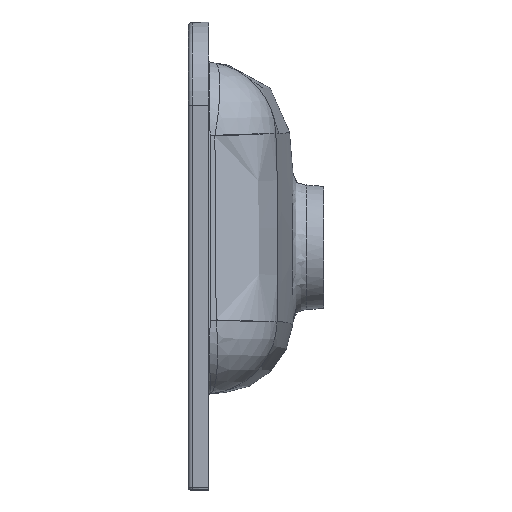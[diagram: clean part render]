
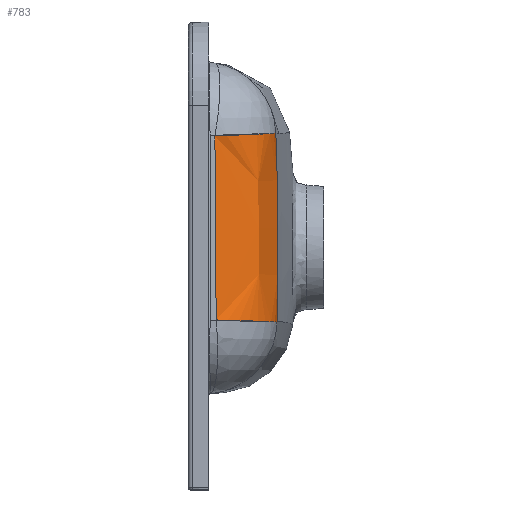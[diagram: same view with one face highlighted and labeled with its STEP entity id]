
A CAD part, left-side view. The second image highlights one B-rep face of the part: STEP entity #783.
In plain terms, the highlighted free-form (B-spline) face has degree [3, 2] with [10, 3] control points.
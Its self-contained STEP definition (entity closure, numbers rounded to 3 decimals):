
#18 = CARTESIAN_POINT ( 'NONE',  ( -240.592, 4.713, -73.352 ) ) ;
#54 = CARTESIAN_POINT ( 'NONE',  ( -306.612, 65.978, 109.721 ) ) ;
#59 = CIRCLE ( 'NONE', #292, 73. ) ;
#61 = ORIENTED_EDGE ( 'NONE', *, *, #506, .F. ) ;
#91 = CARTESIAN_POINT ( 'NONE',  ( -240.527, 5.365, 97.014 ) ) ;
#130 = CARTESIAN_POINT ( 'NONE',  ( -240.666, 4.044, -42.396 ) ) ;
#138 = DIRECTION ( 'NONE',  ( 0., -0.999, 0.038 ) ) ;
#173 = DIRECTION ( 'NONE',  ( -0.007, 0.038, 0.999 ) ) ;
#204 = CARTESIAN_POINT ( 'NONE',  ( -296.528, 8.787, 34.961 ) ) ;
#226 = CARTESIAN_POINT ( 'NONE',  ( -240.592, 4.713, -73.352 ) ) ;
#292 = AXIS2_PLACEMENT_3D ( 'NONE', #1269, #173, #138 ) ;
#391 = CARTESIAN_POINT ( 'NONE',  ( -240.592, 4.713, -73.352 ) ) ;
#506 = EDGE_CURVE ( 'NONE', #2186, #3631, #5809, .T. ) ;
#584 = FACE_OUTER_BOUND ( 'NONE', #2105, .T. ) ;
#682 = CARTESIAN_POINT ( 'NONE',  ( -306.429, 64.939, 79.524 ) ) ;
#695 = CARTESIAN_POINT ( 'NONE',  ( -306.262, 63.99, 34.224 ) ) ;
#783 = ADVANCED_FACE ( 'NONE', ( #584 ), #6245, .T. ) ;
#805 = CARTESIAN_POINT ( 'NONE',  ( -306.279, 64.09, -41.288 ) ) ;
#880 = CARTESIAN_POINT ( 'NONE',  ( -240.707, 3.726, 4.066 ) ) ;
#1243 = DIRECTION ( 'NONE',  ( 0.005, -0.026, 1. ) ) ;
#1269 = CARTESIAN_POINT ( 'NONE',  ( -234.721, 78.654, 109.721 ) ) ;
#1294 = CARTESIAN_POINT ( 'NONE',  ( -240.632, 4.322, -57.889 ) ) ;
#1367 = CARTESIAN_POINT ( 'NONE',  ( -240.704, 3.746, -11.385 ) ) ;
#1380 = EDGE_CURVE ( 'NONE', #6157, #2287, #1651, .T. ) ;
#1651 = B_SPLINE_CURVE_WITH_KNOTS ( 'NONE', 3,
 ( #6610, #7107, #3818, #6081, #6569, #880, #3066, #4844, #2079, #226 ),
 .UNSPECIFIED., .F., .F.,
 ( 4, 2, 2, 2, 4 ),
 ( 0., 0.046, 0.093, 0.139, 0.186 ),
 .UNSPECIFIED. ) ;
#1844 = CARTESIAN_POINT ( 'NONE',  ( -296.808, 10.376, 111.875 ) ) ;
#1878 = CARTESIAN_POINT ( 'NONE',  ( -296.726, 9.914, 96.543 ) ) ;
#1954 = CARTESIAN_POINT ( 'NONE',  ( -240.679, 3.944, 35.147 ) ) ;
#2079 = CARTESIAN_POINT ( 'NONE',  ( -240.632, 4.321, -57.871 ) ) ;
#2105 = EDGE_LOOP ( 'NONE', ( #4099, #2894, #3554, #61 ) ) ;
#2186 = VERTEX_POINT ( 'NONE', #4769 ) ;
#2287 = VERTEX_POINT ( 'NONE', #391 ) ;
#2340 = CARTESIAN_POINT ( 'NONE',  ( -296.635, 9.393, -72.975 ) ) ;
#2375 = CARTESIAN_POINT ( 'NONE',  ( -296.66, 9.536, 81.168 ) ) ;
#2424 = CARTESIAN_POINT ( 'NONE',  ( -306.397, 64.759, -71.497 ) ) ;
#2515 = CARTESIAN_POINT ( 'NONE',  ( -240.572, 4.893, 81.577 ) ) ;
#2551 = EDGE_CURVE ( 'NONE', #3631, #6157, #59, .T. ) ;
#2894 = ORIENTED_EDGE ( 'NONE', *, *, #1380, .F. ) ;
#2938 = CARTESIAN_POINT ( 'NONE',  ( -296.542, 8.865, -42.173 ) ) ;
#3008 = CARTESIAN_POINT ( 'NONE',  ( -306.279, 64.09, -41.288 ) ) ;
#3019 = CARTESIAN_POINT ( 'NONE',  ( -306.304, 64.229, 49.325 ) ) ;
#3066 = CARTESIAN_POINT ( 'NONE',  ( -240.704, 3.747, -11.417 ) ) ;
#3135 = CARTESIAN_POINT ( 'NONE',  ( -306.227, 63.792, -11.081 ) ) ;
#3554 = ORIENTED_EDGE ( 'NONE', *, *, #2551, .F. ) ;
#3627 = CARTESIAN_POINT ( 'NONE',  ( -306.512, 65.411, 94.623 ) ) ;
#3631 = VERTEX_POINT ( 'NONE', #6635 ) ;
#3685 = CARTESIAN_POINT ( 'NONE',  ( -296.501, 8.633, -11.326 ) ) ;
#3818 = CARTESIAN_POINT ( 'NONE',  ( -240.573, 4.89, 81.464 ) ) ;
#4099 = ORIENTED_EDGE ( 'NONE', *, *, #5102, .T. ) ;
#4121 = CARTESIAN_POINT ( 'NONE',  ( -296.498, 8.617, 4.112 ) ) ;
#4194 = CARTESIAN_POINT ( 'NONE',  ( -306.227, 63.792, -11.081 ) ) ;
#4204 = CARTESIAN_POINT ( 'NONE',  ( -306.429, 64.939, 79.524 ) ) ;
#4226 = CARTESIAN_POINT ( 'NONE',  ( -240.649, 4.183, 50.643 ) ) ;
#4684 = CARTESIAN_POINT ( 'NONE',  ( -306.512, 65.411, 94.623 ) ) ;
#4718 = CARTESIAN_POINT ( 'NONE',  ( -240.707, 3.726, 4.133 ) ) ;
#4728 = CARTESIAN_POINT ( 'NONE',  ( -306.223, 63.772, 4.021 ) ) ;
#4759 = CARTESIAN_POINT ( 'NONE',  ( -240.485, 5.932, 112.415 ) ) ;
#4769 = CARTESIAN_POINT ( 'NONE',  ( -306.397, 64.759, -71.497 ) ) ;
#4788 = CARTESIAN_POINT ( 'NONE',  ( -306.328, 64.367, -56.392 ) ) ;
#4826 = CARTESIAN_POINT ( 'NONE',  ( -296.561, 8.973, 50.382 ) ) ;
#4844 = CARTESIAN_POINT ( 'NONE',  ( -240.666, 4.044, -42.386 ) ) ;
#5102 = EDGE_CURVE ( 'NONE', #2186, #2287, #6009, .T. ) ;
#5241 = CARTESIAN_POINT ( 'NONE',  ( -306.304, 64.229, 49.325 ) ) ;
#5809 = B_SPLINE_CURVE_WITH_KNOTS ( 'NONE', 3,
 ( #2424, #6558, #805, #3135, #4728, #695, #3019, #4204, #3627, #5919 ),
 .UNSPECIFIED., .F., .F.,
 ( 4, 2, 2, 2, 4 ),
 ( 0., 0.045, 0.091, 0.136, 0.181 ),
 .UNSPECIFIED. ) ;
#5896 = DIRECTION ( 'NONE',  ( 0., -1., -0.026 ) ) ;
#5919 = CARTESIAN_POINT ( 'NONE',  ( -306.612, 65.978, 109.721 ) ) ;
#5987 = CARTESIAN_POINT ( 'NONE',  ( -306.262, 63.99, 34.224 ) ) ;
#6009 = CIRCLE ( 'NONE', #7338, 73. ) ;
#6081 = CARTESIAN_POINT ( 'NONE',  ( -240.649, 4.18, 50.508 ) ) ;
#6157 = VERTEX_POINT ( 'NONE', #4759 ) ;
#6245 =( BOUNDED_SURFACE ( )  B_SPLINE_SURFACE ( 3, 2, ( 
 ( #18, #2340, #6373 ),
 ( #1294, #7085, #4788 ),
 ( #130, #2938, #3008 ),
 ( #1367, #3685, #4194 ),
 ( #4718, #4121, #7120 ),
 ( #1954, #204, #5987 ),
 ( #4226, #4826, #5241 ),
 ( #2515, #2375, #682 ),
 ( #91, #1878, #4684 ),
 ( #7016, #1844, #54 ) ),
 .UNSPECIFIED., .F., .F., .T. ) 
 B_SPLINE_SURFACE_WITH_KNOTS ( ( 4, 2, 2, 2, 4 ),
 ( 3, 3 ),
 ( 0., 0.045, 0.091, 0.136, 0.181 ),
 ( 0., 1. ),
 .UNSPECIFIED. ) 
 GEOMETRIC_REPRESENTATION_ITEM ( )  RATIONAL_B_SPLINE_SURFACE ( (
 ( 1., 0.792, 1.),
 ( 1., 0.793, 1.),
 ( 1., 0.793, 1.),
 ( 1., 0.793, 1.),
 ( 1., 0.793, 1.),
 ( 1., 0.793, 1.),
 ( 1., 0.793, 1.),
 ( 1., 0.792, 1.),
 ( 1., 0.791, 1.),
 ( 1., 0.791, 1.) ) ) 
 REPRESENTATION_ITEM ( '' )  SURFACE ( )  );
#6373 = CARTESIAN_POINT ( 'NONE',  ( -306.397, 64.759, -71.497 ) ) ;
#6558 = CARTESIAN_POINT ( 'NONE',  ( -306.328, 64.367, -56.392 ) ) ;
#6569 = CARTESIAN_POINT ( 'NONE',  ( -240.679, 3.943, 35.029 ) ) ;
#6610 = CARTESIAN_POINT ( 'NONE',  ( -240.485, 5.932, 112.415 ) ) ;
#6635 = CARTESIAN_POINT ( 'NONE',  ( -306.612, 65.978, 109.721 ) ) ;
#7016 = CARTESIAN_POINT ( 'NONE',  ( -240.485, 5.932, 112.415 ) ) ;
#7038 = CARTESIAN_POINT ( 'NONE',  ( -234.506, 77.435, -71.497 ) ) ;
#7085 = CARTESIAN_POINT ( 'NONE',  ( -296.58, 9.082, -57.592 ) ) ;
#7107 = CARTESIAN_POINT ( 'NONE',  ( -240.527, 5.362, 96.94 ) ) ;
#7120 = CARTESIAN_POINT ( 'NONE',  ( -306.223, 63.772, 4.021 ) ) ;
#7338 = AXIS2_PLACEMENT_3D ( 'NONE', #7038, #1243, #5896 ) ;
